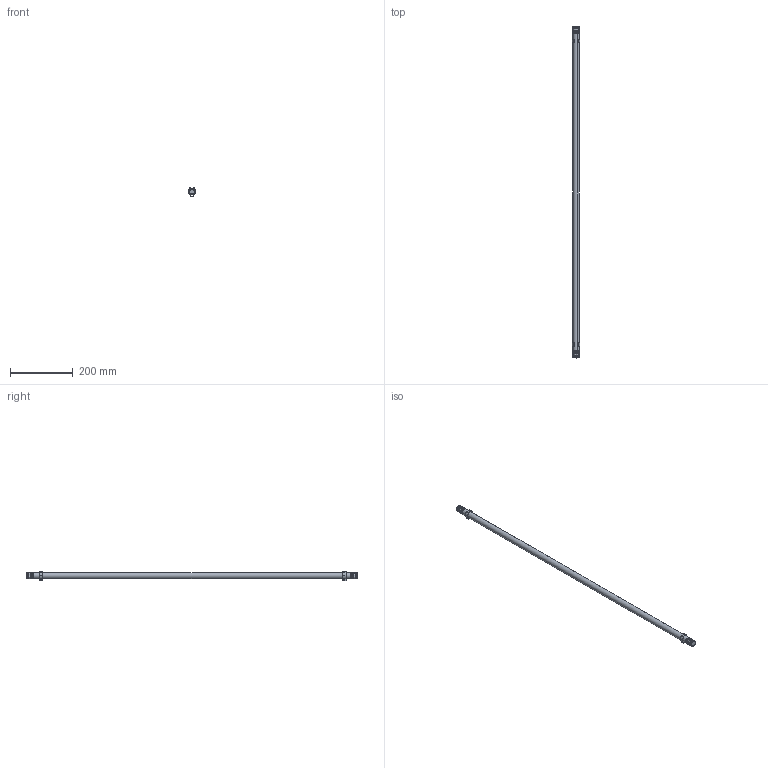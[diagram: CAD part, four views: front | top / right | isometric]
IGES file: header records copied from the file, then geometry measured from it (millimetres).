
Start section: SolidWorks IGES file using analytic representation for surfaces
Global section: file name: L:\Tecnico_PMT\R&D\NEMOstudio\MINIFLUX LINEA\MINIFLUX LINEA WALL\Linea wall C\3D SITO\MINIFLUX LINEA WALL C.IGS; native system: SolidWorks 2016; preprocessor: SolidWorks 2016; author: MartinaCornero; date: 240220.104142; units: millimetre
Bounding box: 23.2 x 1060 x 28.92 mm (x, y, z)
Surface area: 126755 mm2 (no closed solid volume)
Topology: 0 solids, 0 shells, 349 faces, 4728 edges, 4728 vertices
Faces by surface type: revolution 308, bspline 41
